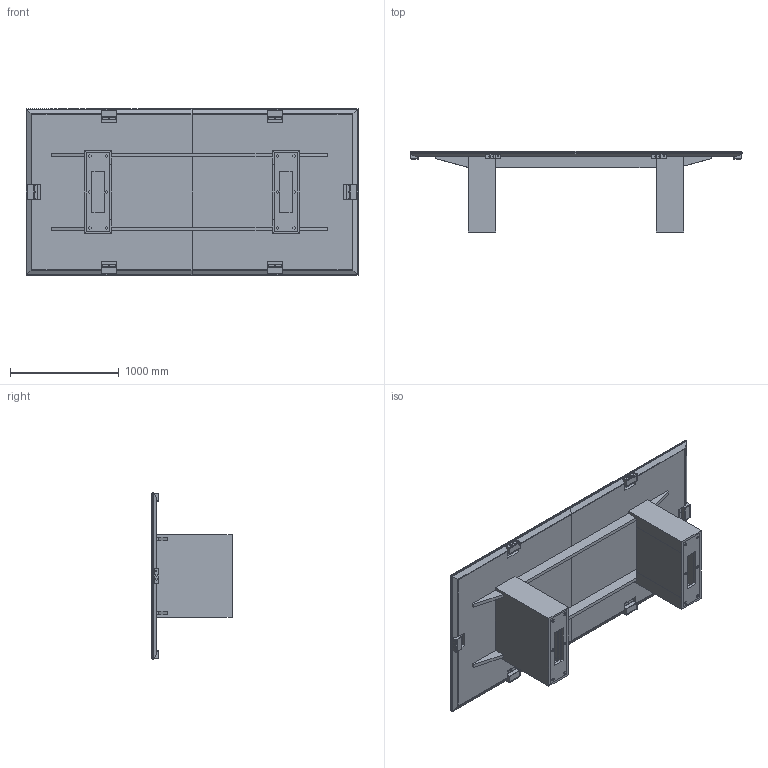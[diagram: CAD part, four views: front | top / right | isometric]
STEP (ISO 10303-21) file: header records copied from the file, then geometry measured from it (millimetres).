
FILE_DESCRIPTION(/* description */ ('','CAx-IF Rec.Pracs.---Representation and Presentation of Product Manufacturing Information (PMI)---4.0---2014-10-13'),/* implementation_level */ '2;1');
FILE_NAME(/* name */ 'TABLE_IMPRESS 3.stp',/* time_stamp */ '2024-12-07T16:04:22-05:00',/* author */ ('mbowman'),/* organization */ (''),/* preprocessor_version */ 'ST-DEVELOPER v19.2',/* originating_system */ 'Autodesk Inventor 2023',/* authorisation */ '');
FILE_SCHEMA (('AP242_MANAGED_MODEL_BASED_3D_ENGINEERING_MIM_LF { 1 0 10303 442 1 1 4 }'));
Length unit declared in the file: inch
Products named in the file (18): IMPRESS^TABLE 3_2pc 60x120-30 BASE SOLID ASSEMBLY; IMPRESS^TABLE 3_2pc 60x120-TOP PARTS SOLID; IMPRESS^TABLE 3_10X30 END BASE-ASSEMBLY; IMPRESS^TABLE 3_10X30 END BASE-BOTTOM; IMPRESS^TABLE 3_10X30 END BASE-BACK; IMPRESS^TABLE 3_10X30 END BASE-LEFT SIDE; IMPRESS^TABLE 3_10X30 END BASE-RIGHT SIDE; IMPRESS^TABLE 3_10X30 END BASE-RIGHT WING; IMPRESS^TABLE 3_10X30 END BASE-LEFT WING; IMPRESS^TABLE 3_10X30 END BASE-ACCESS; IMPRESS^TABLE 3_10X30 END BASE-TOP; BALAST BLOCK; BALLAST BLOCK BRACKET - (H-577W); IMPRESS^TABLE 3_10X30 BASE-Z CLIP RAIL (1.5 ALUM); Z-CLIP 25in THK - (HL-131); H-713AA; IMPRESS^TABLE 3_2pc 60x120-KEEL; ASHLEY DUO
Assembly tree (37 placements, depth 3):
  IMPRESS^TABLE 3_2pc 60x120-30 BASE SOLID ASSEMBLY
    IMPRESS^TABLE 3_2pc 60x120-TOP PARTS SOLID
    IMPRESS^TABLE 3_10X30 END BASE-ASSEMBLY  x2
      IMPRESS^TABLE 3_10X30 END BASE-BOTTOM
      IMPRESS^TABLE 3_10X30 END BASE-BACK
      IMPRESS^TABLE 3_10X30 END BASE-LEFT SIDE
      IMPRESS^TABLE 3_10X30 END BASE-RIGHT SIDE
      IMPRESS^TABLE 3_10X30 END BASE-RIGHT WING
      IMPRESS^TABLE 3_10X30 END BASE-LEFT WING
      IMPRESS^TABLE 3_10X30 END BASE-ACCESS
      IMPRESS^TABLE 3_10X30 END BASE-TOP
      BALAST BLOCK
      BALLAST BLOCK BRACKET - (H-577W)
      H-713AA
      IMPRESS^TABLE 3_10X30 BASE-Z CLIP RAIL (1.5 ALUM)
      Z-CLIP 25in THK - (HL-131)
    IMPRESS^TABLE 3_2pc 60x120-KEEL  x2
    ASHLEY DUO  x6
Bounding box: 3054.35 x 749.3 x 1530.35 mm (x, y, z)
Volume: 319241711.6 mm3; surface area: 30699167.1 mm2
Topology: 94 solids, 94 shells, 1360 faces, 3150 edges, 2044 vertices
Faces by surface type: plane 1070, cylinder 214, sphere 48, cone 28
Full cylindrical faces by diameter (mm): 4.762 x42, 5.74 x12, 7.938 x12, 11.112 x12
Entity records: 14642 total; most frequent: CARTESIAN_POINT 2790, DIRECTION 2224, ORIENTED_EDGE 1894, EDGE_CURVE 947, LINE 868, VECTOR 868, AXIS2_PLACEMENT_3D 678, VERTEX_POINT 619
